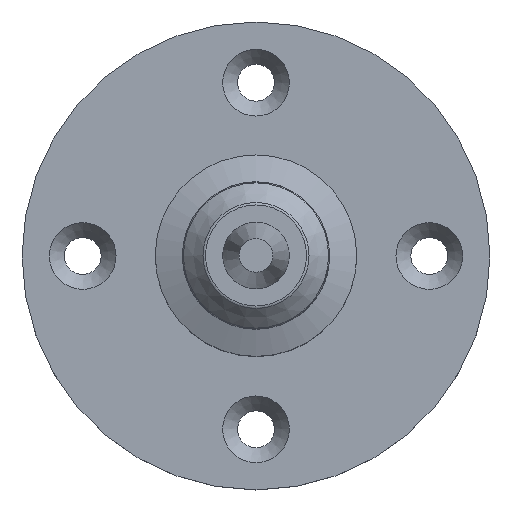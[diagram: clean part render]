
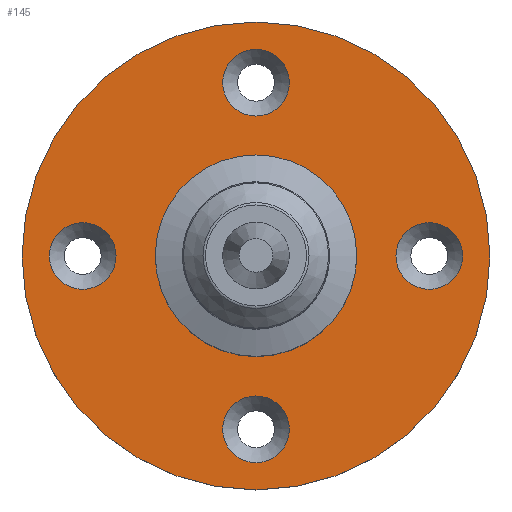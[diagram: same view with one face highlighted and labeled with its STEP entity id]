
A CAD part, top view. The second image highlights one B-rep face of the part: STEP entity #145.
In plain terms, the highlighted planar face has unit normal (0, 0, 1).
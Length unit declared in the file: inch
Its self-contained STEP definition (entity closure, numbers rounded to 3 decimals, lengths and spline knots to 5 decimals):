
#74=CARTESIAN_POINT('',(-23.96713,93.7005,-62.28557));
#75=DIRECTION('',(0.0,0.0,1.0));
#76=DIRECTION('',(-1.0,0.0,0.0));
#77=AXIS2_PLACEMENT_3D('',#74,#75,#76);
#78=PLANE('',#77);
#79=CARTESIAN_POINT('',(-22.61713,93.7005,-62.28557));
#80=VERTEX_POINT('',#79);
#81=CARTESIAN_POINT('',(-23.96713,93.7005,-62.28557));
#82=DIRECTION('',(0.0,0.0,1.0));
#83=DIRECTION('',(1.0,0.0,0.0));
#84=AXIS2_PLACEMENT_3D('',#81,#82,#83);
#85=CIRCLE('',#84,1.35);
#86=EDGE_CURVE('',#80,#80,#85,.T.);
#87=ORIENTED_EDGE('',*,*,#86,.T.);
#88=EDGE_LOOP('',(#87));
#89=FACE_OUTER_BOUND('',#88,.T.);
#90=CARTESIAN_POINT('',(-24.96713,93.893,-62.28557));
#91=VERTEX_POINT('',#90);
#92=CARTESIAN_POINT('',(-24.96713,93.7005,-62.28557));
#93=DIRECTION('',(0.0,0.0,-1.0));
#94=DIRECTION('',(0.0,1.0,0.0));
#95=AXIS2_PLACEMENT_3D('',#92,#93,#94);
#96=CIRCLE('',#95,0.1925);
#97=EDGE_CURVE('',#91,#91,#96,.T.);
#98=ORIENTED_EDGE('',*,*,#97,.T.);
#99=EDGE_LOOP('',(#98));
#100=FACE_BOUND('',#99,.T.);
#101=CARTESIAN_POINT('',(-22.96713,93.508,-62.28557));
#102=VERTEX_POINT('',#101);
#103=CARTESIAN_POINT('',(-22.96713,93.7005,-62.28557));
#104=DIRECTION('',(0.0,0.0,-1.0));
#105=DIRECTION('',(0.0,-1.0,0.0));
#106=AXIS2_PLACEMENT_3D('',#103,#104,#105);
#107=CIRCLE('',#106,0.1925);
#108=EDGE_CURVE('',#102,#102,#107,.T.);
#109=ORIENTED_EDGE('',*,*,#108,.T.);
#110=EDGE_LOOP('',(#109));
#111=FACE_BOUND('',#110,.T.);
#112=CARTESIAN_POINT('',(-24.15963,92.7005,-62.28557));
#113=VERTEX_POINT('',#112);
#114=CARTESIAN_POINT('',(-23.96713,92.7005,-62.28557));
#115=DIRECTION('',(0.0,0.0,-1.0));
#116=DIRECTION('',(-1.0,0.0,0.0));
#117=AXIS2_PLACEMENT_3D('',#114,#115,#116);
#118=CIRCLE('',#117,0.1925);
#119=EDGE_CURVE('',#113,#113,#118,.T.);
#120=ORIENTED_EDGE('',*,*,#119,.T.);
#121=EDGE_LOOP('',(#120));
#122=FACE_BOUND('',#121,.T.);
#123=CARTESIAN_POINT('',(-23.77463,94.7005,-62.28557));
#124=VERTEX_POINT('',#123);
#125=CARTESIAN_POINT('',(-23.96713,94.7005,-62.28557));
#126=DIRECTION('',(0.0,0.0,-1.0));
#127=DIRECTION('',(1.0,0.0,0.0));
#128=AXIS2_PLACEMENT_3D('',#125,#126,#127);
#129=CIRCLE('',#128,0.1925);
#130=EDGE_CURVE('',#124,#124,#129,.T.);
#131=ORIENTED_EDGE('',*,*,#130,.T.);
#132=EDGE_LOOP('',(#131));
#133=FACE_BOUND('',#132,.T.);
#134=CARTESIAN_POINT('',(-23.96713,93.3755,-62.28557));
#135=VERTEX_POINT('',#134);
#136=CARTESIAN_POINT('',(-23.96713,93.7005,-62.28557));
#137=DIRECTION('',(0.0,0.0,1.0));
#138=DIRECTION('',(0.0,1.0,0.0));
#139=AXIS2_PLACEMENT_3D('',#136,#137,#138);
#140=CIRCLE('',#139,0.325);
#141=EDGE_CURVE('',#135,#135,#140,.T.);
#142=ORIENTED_EDGE('',*,*,#141,.F.);
#143=EDGE_LOOP('',(#142));
#144=FACE_BOUND('',#143,.T.);
#145=ADVANCED_FACE('',(#89,#100,#111,#122,#133,#144),#78,.T.);
